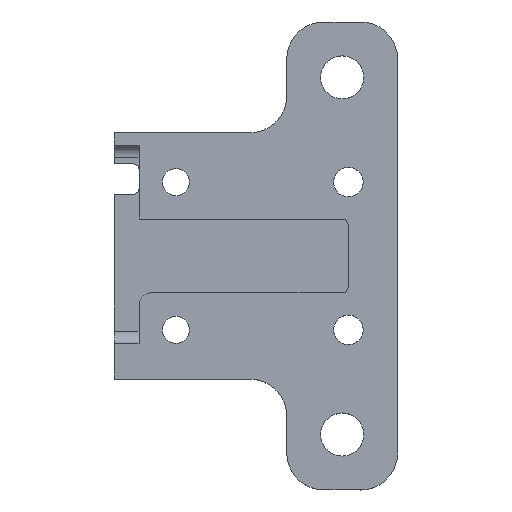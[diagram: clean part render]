
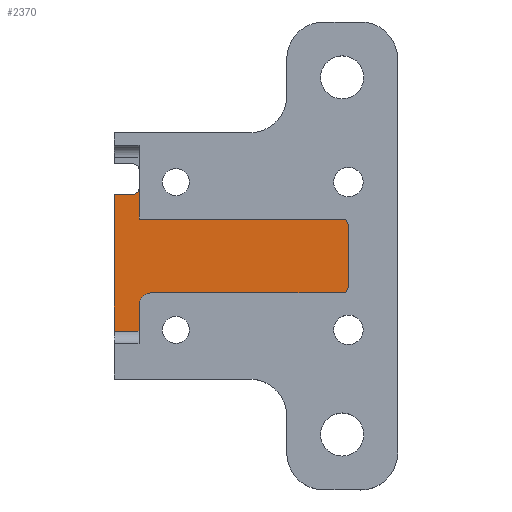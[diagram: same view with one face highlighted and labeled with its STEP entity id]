
A CAD part, top view. The second image highlights one B-rep face of the part: STEP entity #2370.
In plain terms, the highlighted planar face has unit normal (0, 0, 1).
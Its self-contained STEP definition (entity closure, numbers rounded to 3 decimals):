
#805=DIRECTION('',(1.,0.,0.));
#806=VECTOR('',#805,1.5);
#807=CARTESIAN_POINT('',(-10.,5.,0.8));
#808=LINE('',#807,#806);
#809=DIRECTION('',(0.,-1.,0.));
#810=VECTOR('',#809,2.5);
#811=CARTESIAN_POINT('',(-8.,5.5,0.8));
#812=LINE('',#811,#810);
#813=DIRECTION('',(1.,0.,0.));
#814=VECTOR('',#813,16.5);
#815=CARTESIAN_POINT('',(-8.,3.,0.8));
#816=LINE('',#815,#814);
#817=CARTESIAN_POINT('',(8.5,2.5,0.8));
#818=DIRECTION('',(0.,0.,-1.));
#819=DIRECTION('',(0.,1.,0.));
#820=AXIS2_PLACEMENT_3D('',#817,#818,#819);
#822=DIRECTION('',(0.,-1.,0.));
#823=VECTOR('',#822,5.);
#824=CARTESIAN_POINT('',(9.,2.5,0.8));
#825=LINE('',#824,#823);
#826=CARTESIAN_POINT('',(8.5,-2.5,0.8));
#827=DIRECTION('',(0.,0.,-1.));
#828=DIRECTION('',(1.,0.,0.));
#829=AXIS2_PLACEMENT_3D('',#826,#827,#828);
#831=DIRECTION('',(-1.,0.,0.));
#832=VECTOR('',#831,15.5);
#833=CARTESIAN_POINT('',(8.5,-3.,0.8));
#834=LINE('',#833,#832);
#835=CARTESIAN_POINT('',(-7.,-4.,0.8));
#836=DIRECTION('',(0.,0.,1.));
#837=DIRECTION('',(0.,1.,0.));
#838=AXIS2_PLACEMENT_3D('',#835,#836,#837);
#840=DIRECTION('',(0.,-1.,0.));
#841=VECTOR('',#840,2.1);
#842=CARTESIAN_POINT('',(-8.,-4.,0.8));
#843=LINE('',#842,#841);
#844=DIRECTION('',(1.,0.,0.));
#845=VECTOR('',#844,2.);
#846=CARTESIAN_POINT('',(-10.,-6.1,0.8));
#847=LINE('',#846,#845);
#848=DIRECTION('',(0.,1.,0.));
#849=VECTOR('',#848,11.1);
#850=CARTESIAN_POINT('',(-10.,-6.1,0.8));
#851=LINE('',#850,#849);
#884=CARTESIAN_POINT('',(-8.5,5.5,0.8));
#885=DIRECTION('',(0.,0.,-1.));
#886=DIRECTION('',(1.,0.,0.));
#887=AXIS2_PLACEMENT_3D('',#884,#885,#886);
#953=CARTESIAN_POINT('',(-8.,-4.,0.8));
#954=VERTEX_POINT('',#953);
#955=CARTESIAN_POINT('',(-7.,-3.,0.8));
#956=VERTEX_POINT('',#955);
#957=CARTESIAN_POINT('',(8.5,-3.,0.8));
#958=VERTEX_POINT('',#957);
#959=CARTESIAN_POINT('',(8.5,3.,0.8));
#960=CARTESIAN_POINT('',(9.,2.5,0.8));
#961=VERTEX_POINT('',#959);
#962=VERTEX_POINT('',#960);
#963=CARTESIAN_POINT('',(9.,-2.5,0.8));
#964=VERTEX_POINT('',#963);
#975=CARTESIAN_POINT('',(-8.,3.,0.8));
#976=VERTEX_POINT('',#975);
#989=CARTESIAN_POINT('',(-8.,-6.1,0.8));
#991=VERTEX_POINT('',#989);
#995=CARTESIAN_POINT('',(-10.,-6.1,0.8));
#996=VERTEX_POINT('',#995);
#998=CARTESIAN_POINT('',(-10.,5.,0.8));
#1000=VERTEX_POINT('',#998);
#1014=CARTESIAN_POINT('',(-8.5,5.,0.8));
#1016=VERTEX_POINT('',#1014);
#1018=CARTESIAN_POINT('',(-8.,5.5,0.8));
#1020=VERTEX_POINT('',#1018);
#2343=CARTESIAN_POINT('',(0.,0.,0.8));
#2344=DIRECTION('',(0.,0.,1.));
#2345=DIRECTION('',(-1.,0.,0.));
#2346=AXIS2_PLACEMENT_3D('',#2343,#2344,#2345);
#2347=PLANE('',#2346);
#2349=ORIENTED_EDGE('',*,*,#2348,.T.);
#2351=ORIENTED_EDGE('',*,*,#2350,.F.);
#2352=ORIENTED_EDGE('',*,*,#2319,.T.);
#2354=ORIENTED_EDGE('',*,*,#2353,.T.);
#2356=ORIENTED_EDGE('',*,*,#2355,.T.);
#2358=ORIENTED_EDGE('',*,*,#2357,.T.);
#2360=ORIENTED_EDGE('',*,*,#2359,.T.);
#2362=ORIENTED_EDGE('',*,*,#2361,.T.);
#2364=ORIENTED_EDGE('',*,*,#2363,.T.);
#2365=ORIENTED_EDGE('',*,*,#2294,.T.);
#2366=ORIENTED_EDGE('',*,*,#2283,.F.);
#2367=ORIENTED_EDGE('',*,*,#1320,.T.);
#2368=EDGE_LOOP('',(#2349,#2351,#2352,#2354,#2356,#2358,#2360,#2362,#2364,#2365,
#2366,#2367));
#2369=FACE_OUTER_BOUND('',#2368,.F.);
#2370=ADVANCED_FACE('',(#2369),#2347,.T.);
#821=CIRCLE('',#820,0.5);
#830=CIRCLE('',#829,0.5);
#839=CIRCLE('',#838,1.);
#888=CIRCLE('',#887,0.5);
#1320=EDGE_CURVE('',#996,#1000,#851,.T.);
#2283=EDGE_CURVE('',#996,#991,#847,.T.);
#2294=EDGE_CURVE('',#954,#991,#843,.T.);
#2319=EDGE_CURVE('',#1020,#976,#812,.T.);
#2348=EDGE_CURVE('',#1000,#1016,#808,.T.);
#2350=EDGE_CURVE('',#1020,#1016,#888,.T.);
#2353=EDGE_CURVE('',#976,#961,#816,.T.);
#2355=EDGE_CURVE('',#961,#962,#821,.T.);
#2357=EDGE_CURVE('',#962,#964,#825,.T.);
#2359=EDGE_CURVE('',#964,#958,#830,.T.);
#2361=EDGE_CURVE('',#958,#956,#834,.T.);
#2363=EDGE_CURVE('',#956,#954,#839,.T.);
